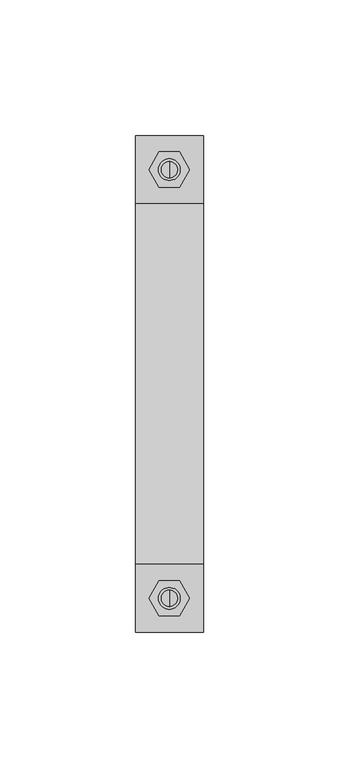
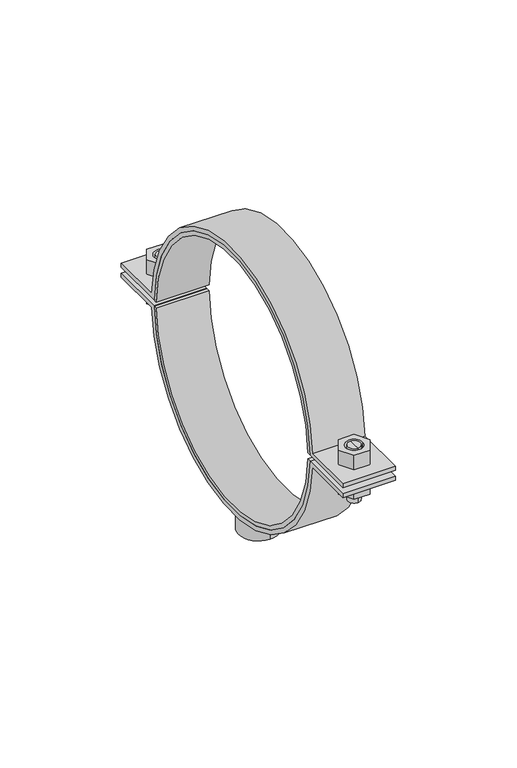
"""IFC4 building model written with IfcOpenShell, lengths in millimetres: valve geometry, Superfix DG2 Clamp Extra + : Superfix DG2 Clamp Extra +."""

from ifc_helpers import new_model, si_unit, point, frame, frame_2d, origin, origin_2d, place, context, project, spatial, polyline, circle_curve, trimmed, segment, composite_curve, outline, extrude, source, transform, mapped, element, save
from ifc_brep_helpers import plane_surface, cylinder_surface, advanced_brep


def valve_71e6190d(model_context):
    return source(origin(), model_context, "Body", "SolidModel", [
        advanced_brep(
        [(0.0, 82.0, 333.9), (0.0, 76.0, 333.9), (0.0, 76.0, 348.5), (0.0, 82.0, 348.5), (0.0, 79.0, 333.9)],
        [
            (0, 1, circle_curve(frame((0.0, 79.0, 333.9), z_axis=(0.0, 0.0, 1.0), x_axis=(0.0, 1.0, 0.0)), 3.0)),
            (1, 2),
            (2, 3, circle_curve(frame((0.0, 79.0, 348.5), z_axis=(0.0, 0.0, -1.0), x_axis=(0.0, 1.0, 0.0)), 3.0)),
            (3, 0),
            (1, 0, circle_curve(frame((0.0, 79.0, 333.9), z_axis=(0.0, 0.0, 1.0), x_axis=(0.0, 1.0, 0.0)), 3.0)),
            (3, 2, circle_curve(frame((0.0, 79.0, 348.5), z_axis=(0.0, 0.0, -1.0), x_axis=(0.0, 1.0, 0.0)), 3.0)),
            (0, 4),
            (4, 1),
        ],
        [
            cylinder_surface(frame((0.0, 79.0, 348.2806094), z_axis=(0.0, 0.0, 1.0), x_axis=(0.0, 1.0, 0.0)), 3.0),
            plane_surface(frame((0.0, 79.0, 333.9), z_axis=(0.0, 0.0, -1.0), x_axis=(0.0, 1.0, 0.0))),
            plane_surface(frame((13.75, -91.5, 348.5), z_axis=(0.0, 0.0, 1.0), x_axis=(-1.0, 0.0, 0.0))),
        ],
        [
            (0, [[1, 2, 3, 4]]),
            (0, [[5, -4, 6, -2]]),
            (1, [[-1, 7, 8]]),
            (1, [[-5, -8, -7]]),
            (2, [[-3, -6]]),
        ],
    ),
        advanced_brep(
        [(0.0, 76.0, 361.1), (0.0, 82.0, 361.1), (0.0, 82.0, 351.5), (0.0, 76.0, 351.5), (0.0, 79.0, 361.1)],
        [
            (0, 1, circle_curve(frame((0.0, 79.0, 361.1), z_axis=(0.0, 0.0, -1.0), x_axis=(0.0, 1.0, 0.0)), 3.0)),
            (1, 2),
            (2, 3, circle_curve(frame((0.0, 79.0, 351.5), z_axis=(0.0, 0.0, 1.0), x_axis=(0.0, 1.0, 0.0)), 3.0)),
            (3, 0),
            (1, 0, circle_curve(frame((0.0, 79.0, 361.1), z_axis=(0.0, 0.0, -1.0), x_axis=(0.0, 1.0, 0.0)), 3.0)),
            (3, 2, circle_curve(frame((0.0, 79.0, 351.5), z_axis=(0.0, 0.0, 1.0), x_axis=(0.0, 1.0, 0.0)), 3.0)),
            (0, 4),
            (4, 1),
        ],
        [
            cylinder_surface(frame((0.0, 79.0, 348.2806094), z_axis=(0.0, 0.0, 1.0), x_axis=(0.0, 1.0, 0.0)), 3.0),
            plane_surface(frame((0.0, 79.0, 361.1), z_axis=(0.0, 0.0, 1.0), x_axis=(0.0, 1.0, 0.0))),
            plane_surface(frame((13.75, 91.5, 351.5), z_axis=(0.0, 0.0, -1.0), x_axis=(-1.0, 0.0, 0.0))),
        ],
        [
            (0, [[1, 2, 3, 4]]),
            (0, [[5, -4, 6, -2]]),
            (1, [[-1, 7, 8]]),
            (1, [[-5, -8, -7]]),
            (2, [[-3, -6]]),
        ],
    ),
        advanced_brep(
        [(0.0, -82.0, 361.1), (0.0, -76.0, 361.1), (0.0, -76.0, 351.5), (0.0, -82.0, 351.5), (0.0, -79.0, 361.1)],
        [
            (0, 1, circle_curve(frame((0.0, -79.0, 361.1), z_axis=(0.0, 0.0, -1.0), x_axis=(0.0, -1.0, 0.0)), 3.0)),
            (1, 2),
            (2, 3, circle_curve(frame((0.0, -79.0, 351.5), z_axis=(0.0, 0.0, 1.0), x_axis=(0.0, -1.0, 0.0)), 3.0)),
            (3, 0),
            (1, 0, circle_curve(frame((0.0, -79.0, 361.1), z_axis=(0.0, 0.0, -1.0), x_axis=(0.0, -1.0, 0.0)), 3.0)),
            (3, 2, circle_curve(frame((0.0, -79.0, 351.5), z_axis=(0.0, 0.0, 1.0), x_axis=(0.0, -1.0, 0.0)), 3.0)),
            (0, 4),
            (4, 1),
        ],
        [
            cylinder_surface(frame((0.0, -79.0, 348.2806094), z_axis=(0.0, 0.0, -1.0), x_axis=(0.0, -1.0, 0.0)), 3.0),
            plane_surface(frame((0.0, -79.0, 361.1), z_axis=(0.0, 0.0, 1.0), x_axis=(0.0, -1.0, 0.0))),
            plane_surface(frame((13.75, 91.5, 351.5), z_axis=(0.0, 0.0, -1.0), x_axis=(-1.0, 0.0, 0.0))),
        ],
        [
            (0, [[1, 2, 3, 4]]),
            (0, [[5, -4, 6, -2]]),
            (1, [[-1, 7, 8]]),
            (1, [[-5, -8, -7]]),
            (2, [[-3, -6]]),
        ],
    ),
        advanced_brep(
        [(0.0, -76.0, 333.9), (0.0, -82.0, 333.9), (0.0, -82.0, 348.5), (0.0, -76.0, 348.5), (0.0, -79.0, 333.9)],
        [
            (0, 1, circle_curve(frame((0.0, -79.0, 333.9), z_axis=(0.0, 0.0, 1.0), x_axis=(0.0, -1.0, 0.0)), 3.0)),
            (1, 2),
            (2, 3, circle_curve(frame((0.0, -79.0, 348.5), z_axis=(0.0, 0.0, -1.0), x_axis=(0.0, -1.0, 0.0)), 3.0)),
            (3, 0),
            (1, 0, circle_curve(frame((0.0, -79.0, 333.9), z_axis=(0.0, 0.0, 1.0), x_axis=(0.0, -1.0, 0.0)), 3.0)),
            (3, 2, circle_curve(frame((0.0, -79.0, 348.5), z_axis=(0.0, 0.0, -1.0), x_axis=(0.0, -1.0, 0.0)), 3.0)),
            (0, 4),
            (4, 1),
        ],
        [
            cylinder_surface(frame((0.0, -79.0, 348.2806094), z_axis=(0.0, 0.0, -1.0), x_axis=(0.0, -1.0, 0.0)), 3.0),
            plane_surface(frame((0.0, -79.0, 333.9), z_axis=(0.0, 0.0, -1.0), x_axis=(0.0, -1.0, 0.0))),
            plane_surface(frame((13.75, -91.5, 348.5), z_axis=(0.0, 0.0, 1.0), x_axis=(-1.0, 0.0, 0.0))),
        ],
        [
            (0, [[1, 2, 3, 4]]),
            (0, [[5, -4, 6, -2]]),
            (1, [[-1, 7, 8]]),
            (1, [[-5, -8, -7]]),
            (2, [[-3, -6]]),
        ],
    ),
        extrude(outline(composite_curve([segment(trimmed(circle_curve(frame_2d((0.0, 350.0)), 64.5), [point((-64.4825558, 348.5))], [point((64.4825558, 348.5))], True, "CARTESIAN"), True, "CONTINUOUS"), segment(polyline([(64.4825558, 348.5), (91.5, 348.5), (91.5, 346.5), (66.4078309, 346.5)]), True, "CONTINUOUS"), segment(trimmed(circle_curve(frame_2d((0.0, 350.0)), 66.5), [point((66.4078309, 346.5))], [point((-66.4078309, 346.5))], False, "CARTESIAN"), True, "CONTINUOUS"), segment(polyline([(-66.4078309, 346.5), (-91.5, 346.5), (-91.5, 348.5), (-64.4825558, 348.5)]), True, "CONTINUOUS")], self_intersect=False)), frame((-12.5, 0.0, 0.0), z_axis=(1.0, 0.0, 0.0), x_axis=(0.0, 1.0, 0.0)), (0.0, 0.0, 1.0), 25.0),
        extrude(outline(composite_curve([segment(trimmed(circle_curve(frame_2d((0.0, 350.0)), 64.5), [point((64.4825558, 351.5))], [point((-64.4825558, 351.5))], True, "CARTESIAN"), True, "CONTINUOUS"), segment(polyline([(-64.4825558, 351.5), (-91.5, 351.5), (-91.5, 353.5), (-66.4078309, 353.5)]), True, "CONTINUOUS"), segment(trimmed(circle_curve(frame_2d((0.0, 350.0)), 66.5), [point((-66.4078309, 353.5))], [point((66.4078309, 353.5))], False, "CARTESIAN"), True, "CONTINUOUS"), segment(polyline([(66.4078309, 353.5), (91.5, 353.5), (91.5, 351.5), (64.4825558, 351.5)]), True, "CONTINUOUS")], self_intersect=False)), frame((-12.5, 0.0, 0.0), z_axis=(1.0, 0.0, 0.0), x_axis=(0.0, 1.0, 0.0)), (0.0, 0.0, 1.0), 25.0),
        extrude(outline(polyline([(7.5055535, -79.0), (3.7527767, -85.5), (-3.7527767, -85.5), (-7.5055535, -79.0), (-3.7527767, -72.5), (3.7527767, -72.5), (7.5055535, -79.0)]), holes=[composite_curve([segment(trimmed(circle_curve(frame_2d((0.0, -79.0)), 4.0), [point((4.0, -79.0))], [point((-4.0, -79.0))], True, "CARTESIAN"), True, "CONTINUOUS"), segment(trimmed(circle_curve(frame_2d((0.0, -79.0)), 4.0), [point((-4.0, -79.0))], [point((4.0, -79.0))], True, "CARTESIAN"), True, "CONTINUOUS")], self_intersect=False)]), frame((0.0, 0.0, 353.5), z_axis=(0.0, 0.0, 1.0), x_axis=(1.0, 0.0, 0.0)), (0.0, 0.0, 1.0), 7.6),
        extrude(outline(polyline([(7.5055535, 79.0), (3.7527767, 72.5), (-3.7527767, 72.5), (-7.5055535, 79.0), (-3.7527767, 85.5), (3.7527767, 85.5), (7.5055535, 79.0)]), holes=[composite_curve([segment(trimmed(circle_curve(frame_2d((0.0, 79.0)), 4.0), [point((4.0, 79.0))], [point((-4.0, 79.0))], True, "CARTESIAN"), True, "CONTINUOUS"), segment(trimmed(circle_curve(frame_2d((0.0, 79.0)), 4.0), [point((-4.0, 79.0))], [point((4.0, 79.0))], True, "CARTESIAN"), True, "CONTINUOUS")], self_intersect=False)]), frame((0.0, 0.0, 353.5), z_axis=(0.0, 0.0, 1.0), x_axis=(1.0, 0.0, 0.0)), (0.0, 0.0, 1.0), 7.6),
        extrude(outline(polyline([(7.5055535, -79.0), (3.7527767, -85.5), (-3.7527767, -85.5), (-7.5055535, -79.0), (-3.7527767, -72.5), (3.7527767, -72.5), (7.5055535, -79.0)]), holes=[composite_curve([segment(trimmed(circle_curve(frame_2d((0.0, -79.0)), 4.0), [point((4.0, -79.0))], [point((-4.0, -79.0))], True, "CARTESIAN"), True, "CONTINUOUS"), segment(trimmed(circle_curve(frame_2d((0.0, -79.0)), 4.0), [point((-4.0, -79.0))], [point((4.0, -79.0))], True, "CARTESIAN"), True, "CONTINUOUS")], self_intersect=False)]), frame((0.0, 0.0, 338.9), z_axis=(0.0, 0.0, 1.0), x_axis=(1.0, 0.0, 0.0)), (0.0, 0.0, 1.0), 7.6),
        extrude(outline(polyline([(7.5055535, 79.0), (3.7527767, 72.5), (-3.7527767, 72.5), (-7.5055535, 79.0), (-3.7527767, 85.5), (3.7527767, 85.5), (7.5055535, 79.0)]), holes=[composite_curve([segment(trimmed(circle_curve(frame_2d((0.0, 79.0)), 4.0), [point((4.0, 79.0))], [point((-4.0, 79.0))], True, "CARTESIAN"), True, "CONTINUOUS"), segment(trimmed(circle_curve(frame_2d((0.0, 79.0)), 4.0), [point((-4.0, 79.0))], [point((4.0, 79.0))], True, "CARTESIAN"), True, "CONTINUOUS")], self_intersect=False)]), frame((0.0, 0.0, 338.9), z_axis=(0.0, 0.0, 1.0), x_axis=(1.0, 0.0, 0.0)), (0.0, 0.0, 1.0), 7.6),
        extrude(outline(composite_curve([segment(trimmed(circle_curve(origin_2d(), 9.5), [point((0.0, 9.5))], [point((0.0, -9.5))], False, "CARTESIAN"), True, "CONTINUOUS"), segment(trimmed(circle_curve(origin_2d(), 9.5), [point((0.0, -9.5))], [point((0.0, 9.5))], False, "CARTESIAN"), True, "CONTINUOUS")], self_intersect=False), holes=[composite_curve([segment(trimmed(circle_curve(origin_2d(), 6.0), [point((0.0, 6.0))], [point((0.0, -6.0))], True, "CARTESIAN"), True, "CONTINUOUS"), segment(trimmed(circle_curve(origin_2d(), 6.0), [point((0.0, -6.0))], [point((0.0, 6.0))], True, "CARTESIAN"), True, "CONTINUOUS")], self_intersect=False)]), frame((0.0, 0.0, 271.5), z_axis=(0.0, 0.0, 1.0), x_axis=(1.0, 0.0, 0.0)), (0.0, 0.0, 1.0), 14.0),
        extrude(outline(composite_curve([segment(trimmed(circle_curve(frame_2d((0.0, 350.0)), 62.5), [point((62.4819974, 351.5))], [point((-62.4819974, 351.5))], True, "CARTESIAN"), True, "CONTINUOUS"), segment(polyline([(-62.4819974, 351.5), (-64.4825558, 351.5)]), True, "CONTINUOUS"), segment(trimmed(circle_curve(frame_2d((0.0, 350.0)), 64.5), [point((-64.4825558, 351.5))], [point((64.4825558, 351.5))], False, "CARTESIAN"), True, "CONTINUOUS"), segment(polyline([(64.4825558, 351.5), (62.4819974, 351.5)]), True, "CONTINUOUS")], self_intersect=False)), frame((-12.5, 0.0, 0.0), z_axis=(1.0, 0.0, 0.0), x_axis=(0.0, 1.0, 0.0)), (0.0, 0.0, 1.0), 25.0),
        extrude(outline(composite_curve([segment(polyline([(62.4819974, 348.5), (64.4825558, 348.5)]), True, "CONTINUOUS"), segment(trimmed(circle_curve(frame_2d((0.0, 350.0)), 64.5), [point((64.4825558, 348.5))], [point((-64.4825558, 348.5))], False, "CARTESIAN"), True, "CONTINUOUS"), segment(polyline([(-64.4825558, 348.5), (-62.4819974, 348.5)]), True, "CONTINUOUS"), segment(trimmed(circle_curve(frame_2d((0.0, 350.0)), 62.5), [point((-62.4819974, 348.5))], [point((62.4819974, 348.5))], True, "CARTESIAN"), True, "CONTINUOUS")], self_intersect=False)), frame((-12.5, 0.0, 0.0), z_axis=(1.0, 0.0, 0.0), x_axis=(0.0, 1.0, 0.0)), (0.0, 0.0, 1.0), 25.0),
    ])


if __name__ == "__main__":
    model = new_model("IFC4")
    model_context = context("Model", 3, world=origin())
    ifc_project = project(units=[si_unit("LENGTHUNIT", "METRE", prefix="MILLI")], contexts=[model_context])
    site = spatial("IfcSite", under=ifc_project)
    building = spatial("IfcBuilding", under=site)
    placement = place(None, origin())
    valve_shape = valve_71e6190d(model_context)
    element("IfcValve", 1, ObjectType="Superfix DG2 Clamp Extra + : Superfix DG2 Clamp Extra +", at=placement, inside=building, context=model_context, shape_type="MappedRepresentation", body=[
        mapped(valve_shape, transform((0.0, 0.0, 0.0), x_axis=(1.0, 0.0, 0.0), y_axis=(0.0, 1.0, 0.0), z_axis=(0.0, 0.0, 1.0))),
    ])
    save(model, "model.ifc")
